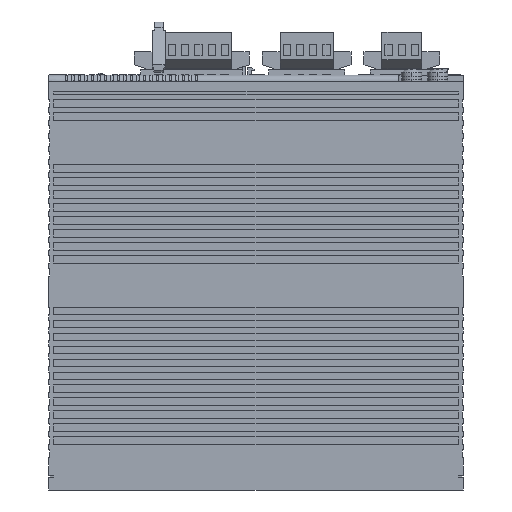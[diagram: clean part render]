
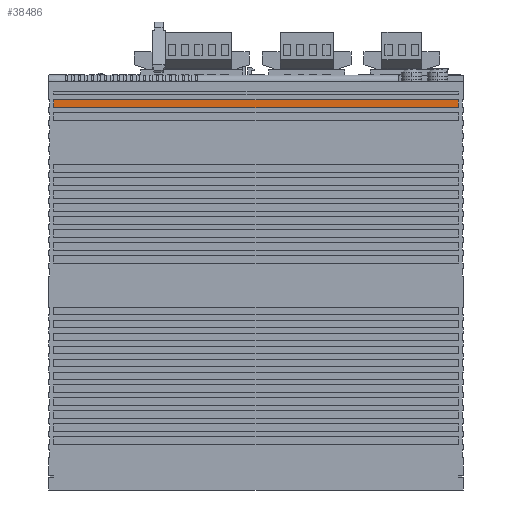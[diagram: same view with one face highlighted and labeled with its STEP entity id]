
A CAD part, left-side view. The second image highlights one B-rep face of the part: STEP entity #38486.
In plain terms, the highlighted planar face has unit normal (-1, 0, 0).
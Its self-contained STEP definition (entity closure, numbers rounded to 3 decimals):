
#2387 = DIRECTION ( 'NONE',  ( 1., 0., 0. ) ) ;
#3195 = DIRECTION ( 'NONE',  ( 0., 0., -1. ) ) ;
#11608 = LINE ( 'NONE', #40413, #23778 ) ;
#13775 = FACE_OUTER_BOUND ( 'NONE', #109601, .T. ) ;
#17503 = CARTESIAN_POINT ( 'NONE',  ( -49., -158., 150.5 ) ) ;
#22104 = EDGE_CURVE ( 'NONE', #150007, #71116, #99145, .T. ) ;
#23778 = VECTOR ( 'NONE', #151890, 1000. ) ;
#30122 = DIRECTION ( 'NONE',  ( 0., -1., 0. ) ) ;
#34369 = ORIENTED_EDGE ( 'NONE', *, *, #37693, .T. ) ;
#35032 = CARTESIAN_POINT ( 'NONE',  ( -49., -158., 150.5 ) ) ;
#37059 = DIRECTION ( 'NONE',  ( 0., 0., 1. ) ) ;
#37693 = EDGE_CURVE ( 'NONE', #92613, #169461, #11608, .T. ) ;
#38486 = ADVANCED_FACE ( 'NONE', ( #13775 ), #142789, .F. ) ;
#40413 = CARTESIAN_POINT ( 'NONE',  ( -49., -2., 150.5 ) ) ;
#40798 = EDGE_CURVE ( 'NONE', #71116, #92613, #172770, .T. ) ;
#45437 = ORIENTED_EDGE ( 'NONE', *, *, #22104, .T. ) ;
#71116 = VERTEX_POINT ( 'NONE', #194308 ) ;
#84692 = ORIENTED_EDGE ( 'NONE', *, *, #198698, .T. ) ;
#92613 = VERTEX_POINT ( 'NONE', #142455 ) ;
#99145 = LINE ( 'NONE', #108586, #150826 ) ;
#100811 = ORIENTED_EDGE ( 'NONE', *, *, #40798, .T. ) ;
#106522 = CARTESIAN_POINT ( 'NONE',  ( -49., -2., 150.5 ) ) ;
#108586 = CARTESIAN_POINT ( 'NONE',  ( -49., -2., 147.5 ) ) ;
#109601 = EDGE_LOOP ( 'NONE', ( #34369, #84692, #45437, #100811 ) ) ;
#133840 = AXIS2_PLACEMENT_3D ( 'NONE', #17503, #2387, #160592 ) ;
#140502 = LINE ( 'NONE', #160737, #155233 ) ;
#142455 = CARTESIAN_POINT ( 'NONE',  ( -49., -158., 150.5 ) ) ;
#142789 = PLANE ( 'NONE',  #133840 ) ;
#150007 = VERTEX_POINT ( 'NONE', #151087 ) ;
#150826 = VECTOR ( 'NONE', #30122, 1000. ) ;
#151087 = CARTESIAN_POINT ( 'NONE',  ( -49., -2., 147.5 ) ) ;
#151890 = DIRECTION ( 'NONE',  ( 0., 1., 0. ) ) ;
#155233 = VECTOR ( 'NONE', #3195, 1000. ) ;
#160592 = DIRECTION ( 'NONE',  ( 0., 1., 0. ) ) ;
#160737 = CARTESIAN_POINT ( 'NONE',  ( -49., -2., 150.5 ) ) ;
#169461 = VERTEX_POINT ( 'NONE', #106522 ) ;
#172770 = LINE ( 'NONE', #35032, #194871 ) ;
#194308 = CARTESIAN_POINT ( 'NONE',  ( -49., -158., 147.5 ) ) ;
#194871 = VECTOR ( 'NONE', #37059, 1000. ) ;
#198698 = EDGE_CURVE ( 'NONE', #169461, #150007, #140502, .T. ) ;
